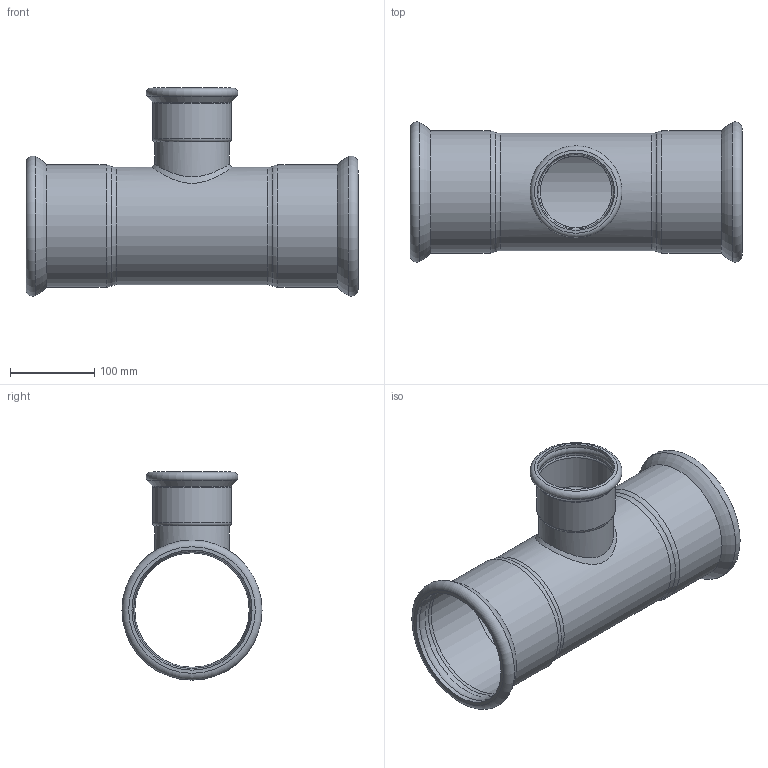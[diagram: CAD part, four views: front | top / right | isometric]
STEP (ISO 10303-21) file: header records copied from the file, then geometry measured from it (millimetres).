
FILE_DESCRIPTION(/* description */ (''),/* implementation_level */ '2;1');
FILE_NAME(/* name */ 'R:\Disegni3D_Area_Manager\Inoxpres.step\192_INOXPRES\192139088_Inoxpres.stp',/* time_stamp */ '2022-10-12T11:11:40+02:00',/* author */ ('Vault'),/* organization */ ('Raccorderie metalliche s.p.a. '),/* preprocessor_version */ 'ST-DEVELOPER v18.1',/* originating_system */ 'Autodesk Inventor 2020',/* authorisation */ 'Raccorderie metalliche s.p.a. ');
FILE_SCHEMA (('AUTOMOTIVE_DESIGN { 1 0 10303 214 3 1 1 }'));
Length unit declared in the file: millimetre
Products named in the file (1): 192139088_Inoxpres
Bounding box: 394 x 166.27 x 247.1 mm (x, y, z)
Volume: 588740.6 mm3; surface area: 412149.2 mm2
Topology: 1 solids, 1 shells, 45 faces, 160 edges, 117 vertices
Faces by surface type: torus 22, cylinder 16, bspline 3, cone 2, plane 2
Full cylindrical faces by diameter (mm): 84.9 x1, 88.9 x1, 89.6 x1, 91.5 x2, 93.6 x1, 135.7 x1, 139.7 x1, 141 x2, 142.5 x4, 145 x2
Entity records: 2791 total; most frequent: CARTESIAN_POINT 1246, DIRECTION 363, ORIENTED_EDGE 320, AXIS2_PLACEMENT_3D 171, EDGE_CURVE 160, CIRCLE 128, VERTEX_POINT 117, EDGE_LOOP 49
